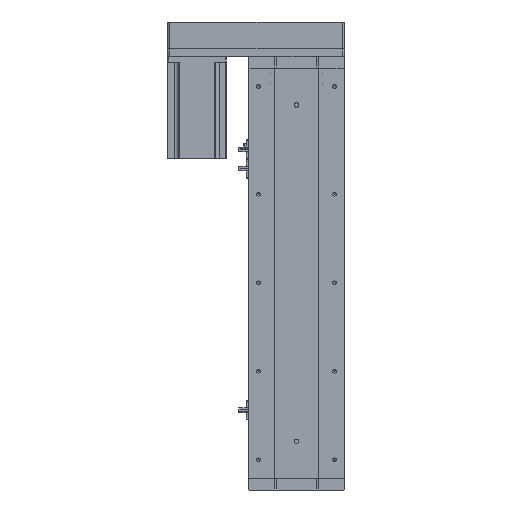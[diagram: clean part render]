
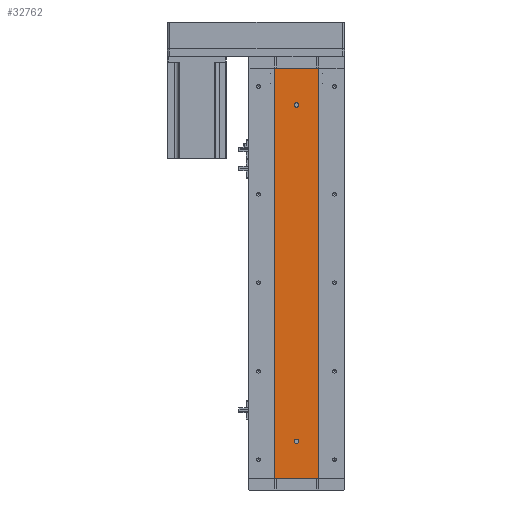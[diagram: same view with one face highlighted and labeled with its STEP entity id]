
A CAD part, left-side view. The second image highlights one B-rep face of the part: STEP entity #32762.
In plain terms, the highlighted planar face has unit normal (-1, 0, 0).
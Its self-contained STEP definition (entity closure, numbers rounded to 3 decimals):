
#234 = VECTOR ( 'NONE', #34628, 1000. ) ;
#1440 = CARTESIAN_POINT ( 'NONE',  ( -24.994, 0., 506. ) ) ;
#1746 = DIRECTION ( 'NONE',  ( 0., 0., 1. ) ) ;
#3734 = CARTESIAN_POINT ( 'NONE',  ( -24.994, 29.785, 556. ) ) ;
#4096 = CARTESIAN_POINT ( 'NONE',  ( -24.994, 29.785, 556. ) ) ;
#4111 = AXIS2_PLACEMENT_3D ( 'NONE', #42835, #22276, #1746 ) ;
#4624 = CARTESIAN_POINT ( 'NONE',  ( -24.994, 29.785, 556. ) ) ;
#4666 = VERTEX_POINT ( 'NONE', #13661 ) ;
#4907 = DIRECTION ( 'NONE',  ( 0., 0., 1. ) ) ;
#5892 = CARTESIAN_POINT ( 'NONE',  ( -24.994, -29.785, 0. ) ) ;
#6112 = DIRECTION ( 'NONE',  ( 0., -1., 0. ) ) ;
#6397 = AXIS2_PLACEMENT_3D ( 'NONE', #1440, #25456, #4907 ) ;
#7258 = CIRCLE ( 'NONE', #40150, 3. ) ;
#7560 = DIRECTION ( 'NONE',  ( 0., 0., -1. ) ) ;
#7995 = EDGE_CURVE ( 'NONE', #31399, #36717, #19808, .T. ) ;
#8622 = CARTESIAN_POINT ( 'NONE',  ( -24.994, 0., 50. ) ) ;
#8833 = VERTEX_POINT ( 'NONE', #5892 ) ;
#8940 = ORIENTED_EDGE ( 'NONE', *, *, #27403, .F. ) ;
#9721 = CARTESIAN_POINT ( 'NONE',  ( -24.994, 0., 47. ) ) ;
#10665 = ORIENTED_EDGE ( 'NONE', *, *, #40765, .T. ) ;
#10667 = VECTOR ( 'NONE', #14966, 1000. ) ;
#10757 = CARTESIAN_POINT ( 'NONE',  ( -24.994, 0., 506. ) ) ;
#11755 = ORIENTED_EDGE ( 'NONE', *, *, #34416, .F. ) ;
#12056 = DIRECTION ( 'NONE',  ( 0., 0., 1. ) ) ;
#12125 = ORIENTED_EDGE ( 'NONE', *, *, #14688, .T. ) ;
#12990 = AXIS2_PLACEMENT_3D ( 'NONE', #8622, #32615, #12056 ) ;
#13661 = CARTESIAN_POINT ( 'NONE',  ( -24.994, 0., 509. ) ) ;
#13945 = CIRCLE ( 'NONE', #4111, 3. ) ;
#14205 = DIRECTION ( 'NONE',  ( 0., 0., 1. ) ) ;
#14688 = EDGE_CURVE ( 'NONE', #31399, #34009, #36782, .T. ) ;
#14966 = DIRECTION ( 'NONE',  ( 0., -1., 0. ) ) ;
#15620 = CIRCLE ( 'NONE', #12990, 3. ) ;
#16491 = FACE_OUTER_BOUND ( 'NONE', #37838, .T. ) ;
#18410 = EDGE_LOOP ( 'NONE', ( #37803, #20170 ) ) ;
#19808 = LINE ( 'NONE', #4624, #10667 ) ;
#19955 = VERTEX_POINT ( 'NONE', #31486 ) ;
#20170 = ORIENTED_EDGE ( 'NONE', *, *, #37478, .F. ) ;
#20980 = LINE ( 'NONE', #30147, #30109 ) ;
#21149 = EDGE_LOOP ( 'NONE', ( #38157, #8940 ) ) ;
#21582 = ORIENTED_EDGE ( 'NONE', *, *, #7995, .F. ) ;
#22276 = DIRECTION ( 'NONE',  ( -1., 0., 0. ) ) ;
#23214 = VERTEX_POINT ( 'NONE', #40496 ) ;
#23591 = DIRECTION ( 'NONE',  ( 0., 0., -1. ) ) ;
#24517 = PLANE ( 'NONE',  #37551 ) ;
#25456 = DIRECTION ( 'NONE',  ( -1., 0., 0. ) ) ;
#27403 = EDGE_CURVE ( 'NONE', #23214, #4666, #7258, .T. ) ;
#27944 = CARTESIAN_POINT ( 'NONE',  ( -24.994, -29.785, 556. ) ) ;
#28149 = DIRECTION ( 'NONE',  ( 1., 0., 0. ) ) ;
#28189 = CARTESIAN_POINT ( 'NONE',  ( -24.994, 29.785, 0. ) ) ;
#30109 = VECTOR ( 'NONE', #6112, 1000. ) ;
#30147 = CARTESIAN_POINT ( 'NONE',  ( -24.994, 29.785, 0. ) ) ;
#31377 = EDGE_CURVE ( 'NONE', #4666, #23214, #32212, .T. ) ;
#31399 = VERTEX_POINT ( 'NONE', #32345 ) ;
#31430 = EDGE_CURVE ( 'NONE', #19955, #38310, #13945, .T. ) ;
#31486 = CARTESIAN_POINT ( 'NONE',  ( -24.994, 0., 53. ) ) ;
#32212 = CIRCLE ( 'NONE', #6397, 3. ) ;
#32345 = CARTESIAN_POINT ( 'NONE',  ( -24.994, 29.785, 556. ) ) ;
#32615 = DIRECTION ( 'NONE',  ( -1., 0., 0. ) ) ;
#32762 = ADVANCED_FACE ( 'NONE', ( #42813, #33687, #16491 ), #24517, .F. ) ;
#33687 = FACE_BOUND ( 'NONE', #18410, .T. ) ;
#34009 = VERTEX_POINT ( 'NONE', #28189 ) ;
#34416 = EDGE_CURVE ( 'NONE', #36717, #8833, #34924, .T. ) ;
#34628 = DIRECTION ( 'NONE',  ( 0., 0., -1. ) ) ;
#34764 = DIRECTION ( 'NONE',  ( -1., 0., 0. ) ) ;
#34924 = LINE ( 'NONE', #40553, #42970 ) ;
#36717 = VERTEX_POINT ( 'NONE', #27944 ) ;
#36782 = LINE ( 'NONE', #3734, #234 ) ;
#37478 = EDGE_CURVE ( 'NONE', #38310, #19955, #15620, .T. ) ;
#37551 = AXIS2_PLACEMENT_3D ( 'NONE', #4096, #28149, #7560 ) ;
#37803 = ORIENTED_EDGE ( 'NONE', *, *, #31430, .F. ) ;
#37838 = EDGE_LOOP ( 'NONE', ( #10665, #11755, #21582, #12125 ) ) ;
#38157 = ORIENTED_EDGE ( 'NONE', *, *, #31377, .F. ) ;
#38310 = VERTEX_POINT ( 'NONE', #9721 ) ;
#40150 = AXIS2_PLACEMENT_3D ( 'NONE', #10757, #34764, #14205 ) ;
#40496 = CARTESIAN_POINT ( 'NONE',  ( -24.994, 0., 503. ) ) ;
#40553 = CARTESIAN_POINT ( 'NONE',  ( -24.994, -29.785, 556. ) ) ;
#40765 = EDGE_CURVE ( 'NONE', #34009, #8833, #20980, .T. ) ;
#42813 = FACE_BOUND ( 'NONE', #21149, .T. ) ;
#42835 = CARTESIAN_POINT ( 'NONE',  ( -24.994, 0., 50. ) ) ;
#42970 = VECTOR ( 'NONE', #23591, 1000. ) ;
